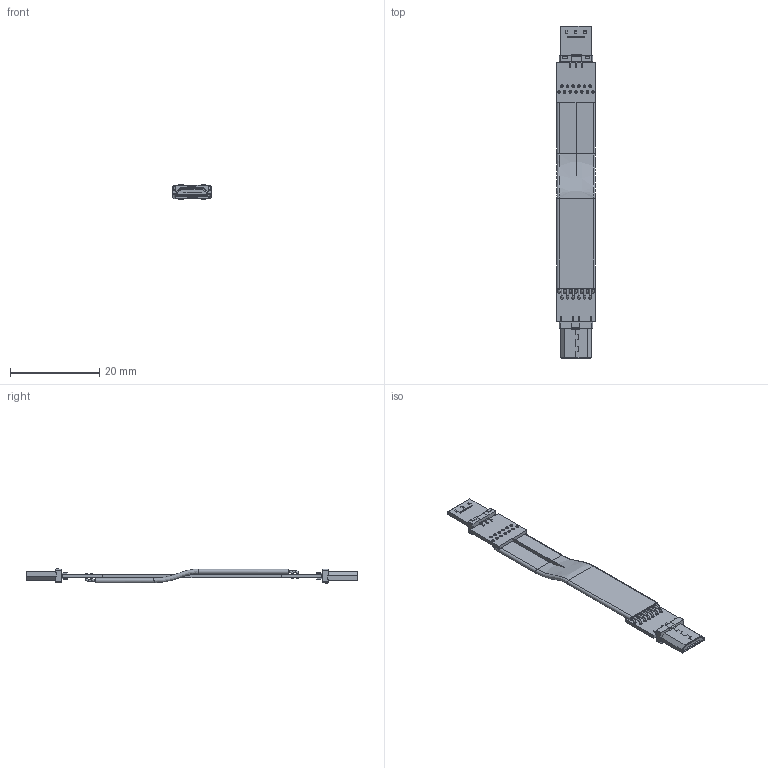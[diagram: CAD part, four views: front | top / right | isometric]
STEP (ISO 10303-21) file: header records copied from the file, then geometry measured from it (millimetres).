
FILE_DESCRIPTION(('Open CASCADE Model'),'2;1');
FILE_NAME('Open CASCADE Shape Model','2020-05-28T22:20:36',('Author'),( 'Open CASCADE'),'Open CASCADE STEP processor 6.8','Open CASCADE 6.8' ,'Unknown');
FILE_SCHEMA(('AUTOMOTIVE_DESIGN { 1 0 10303 214 1 1 1 1 }'));
Length unit declared in the file: millimetre
Products named in the file (34): PCB; Board; Open CASCADE STEP translator 6.8 2.1.1; Designator22_1; micro_usb1; Designator22; Free-Models; cable13-US1A
Assembly tree (34 placements, depth 3):
  PCB
    Board
      Open CASCADE STEP translator 6.8 2.1.1
    Designator22_1
      micro_usb1
    Designator22
      micro_usb1
    Free-Models
      cable13-US1A
      cable13-US1A
      cable13-US1A
      cable13-US1A
      cable13-US1A
      cable13-US1A
      cable13-US1A
      cable13-US1A
      cable13-US1A
      cable13-US1A
      cable13-US1A
      cable13-US1A
      cable13-US1A
      cable13-US1A
      cable13-US1A
      cable13-US1A
      cable13-US1A
      cable13-US1A
      cable13-US1A
      cable13-US1A
      cable13-US1A
      cable13-US1A
      cable13-US1A
      cable13-US1A
      cable13-US1A
      cable13-US1A
      cable13-US1A
Bounding box: 8.83 x 74.27 x 3.4 mm (x, y, z)
Volume: 614.4 mm3; surface area: 2958 mm2
Topology: 30 solids, 30 shells, 647 faces, 1486 edges, 945 vertices
Faces by surface type: plane 423, cylinder 159, bspline 33, torus 26, extrusion 6
Full cylindrical faces by diameter (mm): 0.4 x59, 0.6 x26
Entity records: 17479 total; most frequent: CARTESIAN_POINT 3679, DIRECTION 2007, ORIENTED_EDGE 1938, EDGE_CURVE 969, AXIS2_PLACEMENT_3D 716, VERTEX_POINT 611, VECTOR 575, LINE 569
